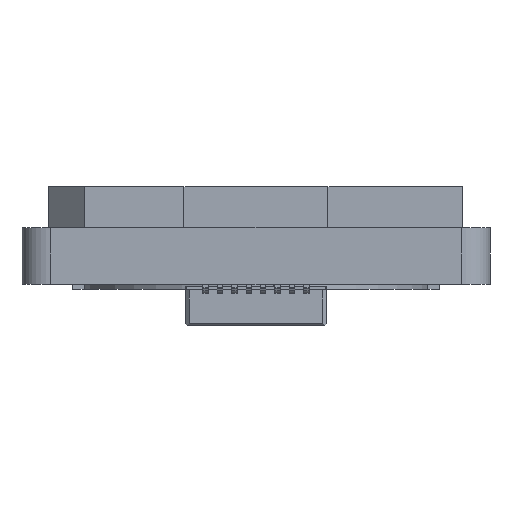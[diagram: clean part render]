
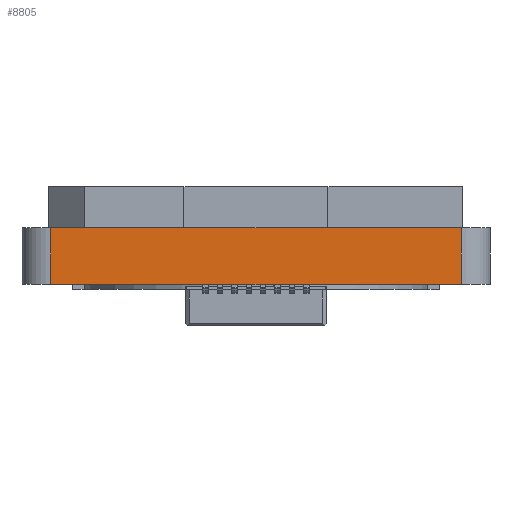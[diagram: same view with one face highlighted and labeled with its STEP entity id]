
A CAD part, front view. The second image highlights one B-rep face of the part: STEP entity #8805.
In plain terms, the highlighted planar face has unit normal (0, -1, 0).
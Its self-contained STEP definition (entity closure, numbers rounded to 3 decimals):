
#251 = LINE ( 'NONE', #11381, #12764 ) ;
#656 = CARTESIAN_POINT ( 'NONE',  ( -27.149, -3.015, 0. ) ) ;
#739 = ORIENTED_EDGE ( 'NONE', *, *, #12655, .T. ) ;
#1008 = VECTOR ( 'NONE', #9007, 1000. ) ;
#1027 = VECTOR ( 'NONE', #11169, 1000. ) ;
#1413 = ORIENTED_EDGE ( 'NONE', *, *, #9579, .F. ) ;
#1655 = EDGE_LOOP ( 'NONE', ( #2336, #1413, #1785, #739 ) ) ;
#1785 = ORIENTED_EDGE ( 'NONE', *, *, #2265, .F. ) ;
#1832 = DIRECTION ( 'NONE',  ( 1., 0., 0. ) ) ;
#2031 = CARTESIAN_POINT ( 'NONE',  ( -27.149, -3.015, 1.575 ) ) ;
#2215 = CARTESIAN_POINT ( 'NONE',  ( -27.149, -3.015, 1.575 ) ) ;
#2265 = EDGE_CURVE ( 'NONE', #3344, #3105, #2983, .T. ) ;
#2336 = ORIENTED_EDGE ( 'NONE', *, *, #8708, .T. ) ;
#2468 = CARTESIAN_POINT ( 'NONE',  ( -15.749, -3.015, 1.575 ) ) ;
#2983 = LINE ( 'NONE', #6019, #1008 ) ;
#3105 = VERTEX_POINT ( 'NONE', #2468 ) ;
#3344 = VERTEX_POINT ( 'NONE', #6997 ) ;
#3921 = PLANE ( 'NONE',  #5296 ) ;
#4038 = DIRECTION ( 'NONE',  ( 0., 1., 0. ) ) ;
#4100 = DIRECTION ( 'NONE',  ( -1., 0., 0. ) ) ;
#5296 = AXIS2_PLACEMENT_3D ( 'NONE', #2031, #4038, #4100 ) ;
#5794 = VERTEX_POINT ( 'NONE', #8543 ) ;
#6019 = CARTESIAN_POINT ( 'NONE',  ( -27.149, -3.015, 1.575 ) ) ;
#6997 = CARTESIAN_POINT ( 'NONE',  ( -27.149, -3.015, 1.575 ) ) ;
#7285 = DIRECTION ( 'NONE',  ( 0., 0., -1. ) ) ;
#8543 = CARTESIAN_POINT ( 'NONE',  ( -27.149, -3.015, 0. ) ) ;
#8708 = EDGE_CURVE ( 'NONE', #5794, #12816, #8713, .T. ) ;
#8713 = LINE ( 'NONE', #656, #10477 ) ;
#8805 = ADVANCED_FACE ( 'NONE', ( #9817 ), #3921, .F. ) ;
#9007 = DIRECTION ( 'NONE',  ( 1., 0., 0. ) ) ;
#9227 = LINE ( 'NONE', #2215, #1027 ) ;
#9579 = EDGE_CURVE ( 'NONE', #3105, #12816, #251, .T. ) ;
#9817 = FACE_OUTER_BOUND ( 'NONE', #1655, .T. ) ;
#10477 = VECTOR ( 'NONE', #1832, 1000. ) ;
#11169 = DIRECTION ( 'NONE',  ( 0., 0., -1. ) ) ;
#11381 = CARTESIAN_POINT ( 'NONE',  ( -15.749, -3.015, 1.575 ) ) ;
#12396 = CARTESIAN_POINT ( 'NONE',  ( -15.749, -3.015, 0. ) ) ;
#12655 = EDGE_CURVE ( 'NONE', #3344, #5794, #9227, .T. ) ;
#12764 = VECTOR ( 'NONE', #7285, 1000. ) ;
#12816 = VERTEX_POINT ( 'NONE', #12396 ) ;
